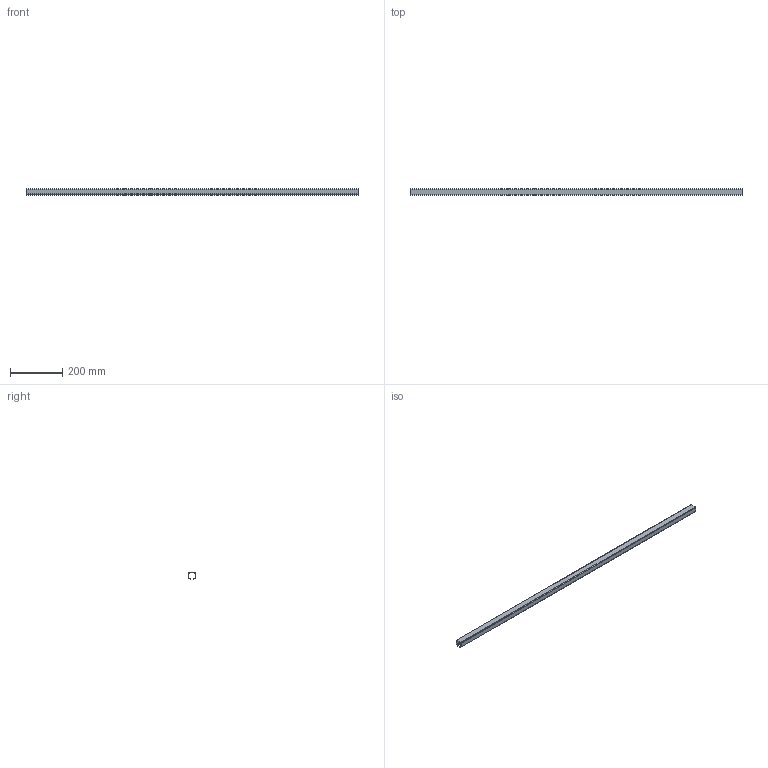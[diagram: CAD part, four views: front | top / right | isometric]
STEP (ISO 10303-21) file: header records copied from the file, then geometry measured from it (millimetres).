
FILE_DESCRIPTION( ( 'STEP AP214' ), '1' );
FILE_NAME( 'C:/Users/KOSH/Desktop/Same as task/Sliding folding/9193563.stp', '2021-07-01T11:29:19', ( '' ), ( '' ), ' ', 'PARTsolutions', ' ' );
FILE_SCHEMA( ( 'AUTOMOTIVE_DESIGN { 1 0 10303 214 1 1 1 1 }' ) );
Length unit declared in the file: millimetre
Products named in the file (1): _9193563
Bounding box: 1272 x 26 x 25 mm (x, y, z)
Volume: 103805.3 mm3; surface area: 210317.9 mm2
Topology: 1 solids, 1 shells, 30 faces, 84 edges, 56 vertices
Faces by surface type: plane 18, cylinder 12
Entity records: 1228 total; most frequent: CARTESIAN_POINT 171, DIRECTION 170, ORIENTED_EDGE 168, EDGE_CURVE 84, LINE 60, VECTOR 60, VERTEX_POINT 56, AXIS2_PLACEMENT_3D 55
